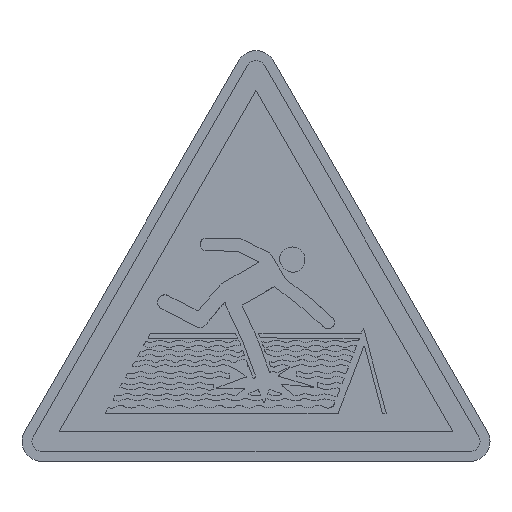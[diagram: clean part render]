
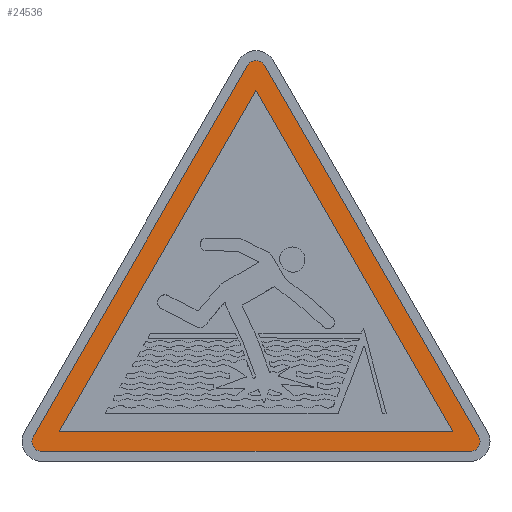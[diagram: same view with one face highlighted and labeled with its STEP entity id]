
A CAD part, top view. The second image highlights one B-rep face of the part: STEP entity #24536.
In plain terms, the highlighted planar face has unit normal (0, 0, 1).
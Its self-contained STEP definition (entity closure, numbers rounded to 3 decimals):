
#867 = VERTEX_POINT ( 'NONE', #22222 ) ;
#929 = ORIENTED_EDGE ( 'NONE', *, *, #17578, .T. ) ;
#1082 = EDGE_LOOP ( 'NONE', ( #8395, #16705, #6704 ) ) ;
#1311 = AXIS2_PLACEMENT_3D ( 'NONE', #34850, #3990, #20919 ) ;
#1856 = CARTESIAN_POINT ( 'NONE',  ( 0.866, 39.801, 0.22 ) ) ;
#2146 = DIRECTION ( 'NONE',  ( -0.5, 0.866, 0. ) ) ;
#2461 = EDGE_CURVE ( 'NONE', #11439, #31839, #28162, .T. ) ;
#3740 = CIRCLE ( 'NONE', #1311, 1. ) ;
#3990 = DIRECTION ( 'NONE',  ( 0., 0., 1. ) ) ;
#3992 = VERTEX_POINT ( 'NONE', #30239 ) ;
#4598 = EDGE_LOOP ( 'NONE', ( #32773, #7359, #30596, #929, #7944, #24001 ) ) ;
#4622 = CARTESIAN_POINT ( 'NONE',  ( 21.536, 1., 0.22 ) ) ;
#4750 = CARTESIAN_POINT ( 'NONE',  ( -22.402, 2.5, 0.22 ) ) ;
#4943 = EDGE_CURVE ( 'NONE', #31893, #23363, #36070, .T. ) ;
#5140 = PLANE ( 'NONE',  #20352 ) ;
#5207 = DIRECTION ( 'NONE',  ( 0., 0., 1. ) ) ;
#5620 = VECTOR ( 'NONE', #31979, 1000. ) ;
#6068 = CARTESIAN_POINT ( 'NONE',  ( 0., 37.301, 0.22 ) ) ;
#6183 = CARTESIAN_POINT ( 'NONE',  ( 0., 39.301, 0.22 ) ) ;
#6469 = VERTEX_POINT ( 'NONE', #11487 ) ;
#6538 = VECTOR ( 'NONE', #2146, 1000. ) ;
#6704 = ORIENTED_EDGE ( 'NONE', *, *, #4943, .F. ) ;
#6834 = CARTESIAN_POINT ( 'NONE',  ( 0., 37.301, 0.22 ) ) ;
#7359 = ORIENTED_EDGE ( 'NONE', *, *, #22963, .T. ) ;
#7886 = FACE_OUTER_BOUND ( 'NONE', #4598, .T. ) ;
#7944 = ORIENTED_EDGE ( 'NONE', *, *, #18604, .T. ) ;
#8395 = ORIENTED_EDGE ( 'NONE', *, *, #33173, .F. ) ;
#8538 = CARTESIAN_POINT ( 'NONE',  ( -21.536, 2., 0.22 ) ) ;
#8794 = LINE ( 'NONE', #6068, #27759 ) ;
#9522 = DIRECTION ( 'NONE',  ( 1., 0., 0. ) ) ;
#11439 = VERTEX_POINT ( 'NONE', #15484 ) ;
#11487 = CARTESIAN_POINT ( 'NONE',  ( -19.804, 3., 0.22 ) ) ;
#11507 = VECTOR ( 'NONE', #27988, 1000. ) ;
#12954 = CARTESIAN_POINT ( 'NONE',  ( -0.866, 39.801, 0.22 ) ) ;
#14819 = CIRCLE ( 'NONE', #32948, 1. ) ;
#15484 = CARTESIAN_POINT ( 'NONE',  ( 22.402, 2.5, 0.22 ) ) ;
#15726 = LINE ( 'NONE', #12954, #5620 ) ;
#16357 = DIRECTION ( 'NONE',  ( 1., 0., 0. ) ) ;
#16546 = CARTESIAN_POINT ( 'NONE',  ( -19.804, 3., 0.22 ) ) ;
#16705 = ORIENTED_EDGE ( 'NONE', *, *, #27566, .F. ) ;
#17212 = DIRECTION ( 'NONE',  ( -0.5, -0.866, 0. ) ) ;
#17578 = EDGE_CURVE ( 'NONE', #867, #27655, #22673, .T. ) ;
#18604 = EDGE_CURVE ( 'NONE', #27655, #11439, #3740, .T. ) ;
#18714 = VECTOR ( 'NONE', #9522, 1000. ) ;
#19025 = FACE_BOUND ( 'NONE', #1082, .T. ) ;
#19975 = CARTESIAN_POINT ( 'NONE',  ( 22.402, 2.5, 0.22 ) ) ;
#20352 = AXIS2_PLACEMENT_3D ( 'NONE', #6183, #28085, #33596 ) ;
#20919 = DIRECTION ( 'NONE',  ( 1., 0., 0. ) ) ;
#21535 = EDGE_CURVE ( 'NONE', #31839, #3992, #31597, .T. ) ;
#21819 = DIRECTION ( 'NONE',  ( 1., 0., 0. ) ) ;
#22222 = CARTESIAN_POINT ( 'NONE',  ( -21.536, 1., 0.22 ) ) ;
#22673 = LINE ( 'NONE', #33840, #18714 ) ;
#22963 = EDGE_CURVE ( 'NONE', #3992, #26805, #15726, .T. ) ;
#23363 = VERTEX_POINT ( 'NONE', #6834 ) ;
#24001 = ORIENTED_EDGE ( 'NONE', *, *, #2461, .T. ) ;
#24536 = ADVANCED_FACE ( 'NONE', ( #7886, #19025 ), #5140, .T. ) ;
#25492 = DIRECTION ( 'NONE',  ( 1., 0., 0. ) ) ;
#26805 = VERTEX_POINT ( 'NONE', #4750 ) ;
#26873 = EDGE_CURVE ( 'NONE', #26805, #867, #14819, .T. ) ;
#27449 = CARTESIAN_POINT ( 'NONE',  ( 0., 39.301, 0.22 ) ) ;
#27466 = LINE ( 'NONE', #16546, #32946 ) ;
#27484 = AXIS2_PLACEMENT_3D ( 'NONE', #27449, #5207, #16357 ) ;
#27566 = EDGE_CURVE ( 'NONE', #23363, #6469, #8794, .T. ) ;
#27655 = VERTEX_POINT ( 'NONE', #4622 ) ;
#27759 = VECTOR ( 'NONE', #17212, 1000. ) ;
#27988 = DIRECTION ( 'NONE',  ( -0.5, 0.866, 0. ) ) ;
#28085 = DIRECTION ( 'NONE',  ( 0., 0., 1. ) ) ;
#28162 = LINE ( 'NONE', #19975, #11507 ) ;
#30239 = CARTESIAN_POINT ( 'NONE',  ( -0.866, 39.801, 0.22 ) ) ;
#30439 = CARTESIAN_POINT ( 'NONE',  ( 19.804, 3., 0.22 ) ) ;
#30596 = ORIENTED_EDGE ( 'NONE', *, *, #26873, .T. ) ;
#30857 = CARTESIAN_POINT ( 'NONE',  ( 19.804, 3., 0.22 ) ) ;
#31179 = DIRECTION ( 'NONE',  ( 0., 0., 1. ) ) ;
#31597 = CIRCLE ( 'NONE', #27484, 1. ) ;
#31839 = VERTEX_POINT ( 'NONE', #1856 ) ;
#31893 = VERTEX_POINT ( 'NONE', #30857 ) ;
#31979 = DIRECTION ( 'NONE',  ( -0.5, -0.866, 0. ) ) ;
#32773 = ORIENTED_EDGE ( 'NONE', *, *, #21535, .T. ) ;
#32946 = VECTOR ( 'NONE', #21819, 1000. ) ;
#32948 = AXIS2_PLACEMENT_3D ( 'NONE', #8538, #31179, #25492 ) ;
#33173 = EDGE_CURVE ( 'NONE', #6469, #31893, #27466, .T. ) ;
#33596 = DIRECTION ( 'NONE',  ( 1., 0., 0. ) ) ;
#33840 = CARTESIAN_POINT ( 'NONE',  ( -21.536, 1., 0.22 ) ) ;
#34850 = CARTESIAN_POINT ( 'NONE',  ( 21.536, 2., 0.22 ) ) ;
#36070 = LINE ( 'NONE', #30439, #6538 ) ;
